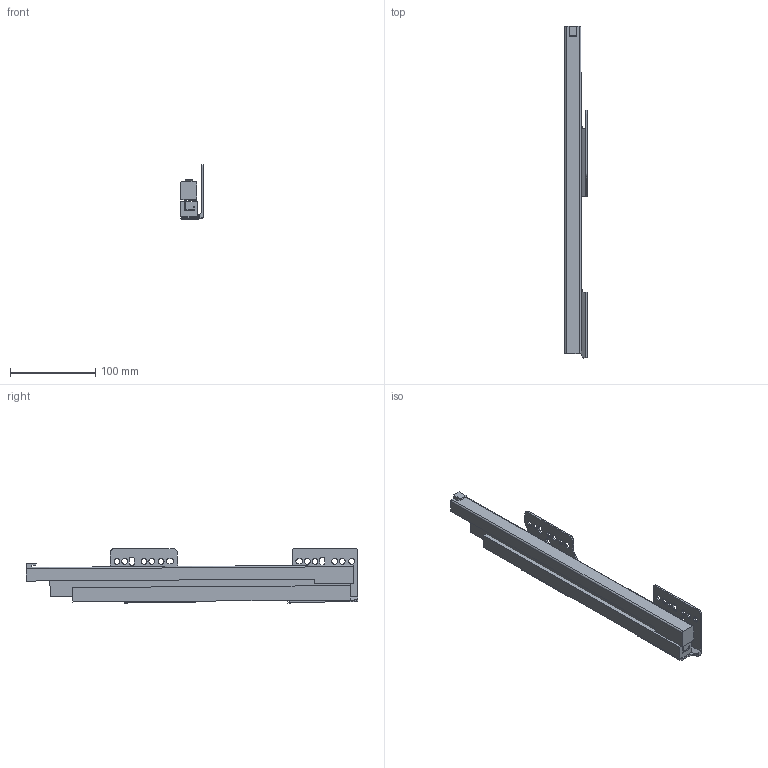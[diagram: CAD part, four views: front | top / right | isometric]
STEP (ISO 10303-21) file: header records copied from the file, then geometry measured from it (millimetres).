
FILE_DESCRIPTION (( 'STEP AP214' ), '1' );
FILE_NAME ('_IMOS_NOVA-Pro_KS_P904_RE_NL400_EB29.step', '2010-07-06T07:17:52', ( 'grass' ), ( '' ), 'SwSTEP 2.0', 'SolidWorks 2009', '' );
FILE_SCHEMA (( 'AUTOMOTIVE_DESIGN' ));
Length unit declared in the file: millimetre
Products named in the file (1): _IMOS_NOVA-Pro_KS_P904_RE_NL400_EB29
Bounding box: 26.75 x 390.39 x 64.46 mm (x, y, z)
Volume: 298564.2 mm3; surface area: 124676.9 mm2
Topology: 6 solids, 6 shells, 144 faces, 392 edges, 260 vertices
Faces by surface type: plane 89, cylinder 55
Entity records: 4691 total; most frequent: CARTESIAN_POINT 848, ORIENTED_EDGE 784, DIRECTION 765, EDGE_CURVE 392, LINE 275, VECTOR 275, VERTEX_POINT 260, AXIS2_PLACEMENT_3D 245
